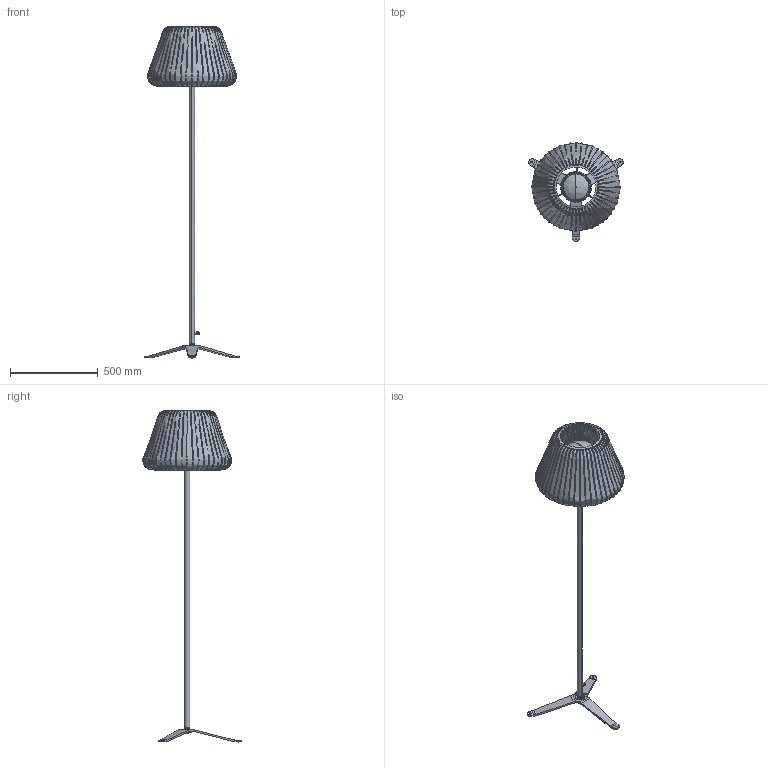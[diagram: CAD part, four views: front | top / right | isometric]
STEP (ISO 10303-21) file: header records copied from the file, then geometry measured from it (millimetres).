
FILE_DESCRIPTION(/* description */ (''),/* implementation_level */ '2;1');
FILE_NAME(/* name */ 'ET04744.050.0000',/* time_stamp */ '2024-10-22T10:36:51+02:00',/* author */ (''),/* organization */ (''),/* preprocessor_version */ 'ST-DEVELOPER v16.5',/* originating_system */ '',/* authorisation */ '');
FILE_SCHEMA (('AUTOMOTIVE_DESIGN'));
Products named in the file (1): Document
Bounding box: 538.81 x 561.46 x 1896.59 mm (x, y, z)
Volume: 1426112.1 mm3; surface area: 1741394.7 mm2
Topology: 29 solids, 31 shells, 2534 faces, 6736 edges, 4142 vertices
Faces by surface type: bspline 1800, plane 734
Entity records: 267462 total; most frequent: CARTESIAN_POINT 229147, ORIENTED_EDGE 13351, EDGE_CURVE 6700, VERTEX_POINT 4142, B_SPLINE_CURVE_WITH_KNOTS 3920, EDGE_LOOP 2626, ADVANCED_FACE 2534, FACE_OUTER_BOUND 2534
